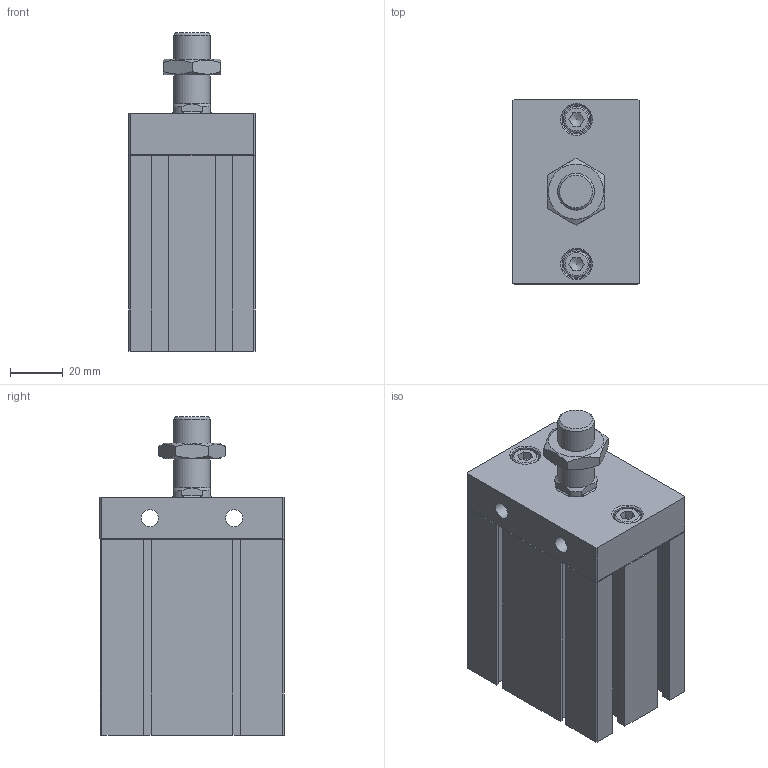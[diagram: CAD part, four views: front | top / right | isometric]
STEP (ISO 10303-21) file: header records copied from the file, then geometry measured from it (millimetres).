
FILE_DESCRIPTION((''),'2;1');
FILE_NAME('I:\3D電子目錄\氣缸\ND\ND\ND40-B\ND40-B.stp','2007-07-30T19:22:15',('Administrator'),(''),'Autodesk Inventor 11','Autodesk Inventor 11','');
FILE_SCHEMA(('AUTOMOTIVE_DESIGN { 1 0 10303 214 1 1 1 1 }'));
Length unit declared in the file: millimetre
Products named in the file (4): ND40-B; R 形環 42; ISO 4762 M6 x 20
Assembly tree (4 placements, depth 2):
  ND40-B
    ND40-B
    R 形環 42
    ISO 4762 M6 x 20  x2
Bounding box: 48 x 70.1 x 121 mm (x, y, z)
Volume: 278077.3 mm3; surface area: 47668.3 mm2
Topology: 5 solids, 5 shells, 207 faces, 501 edges, 321 vertices
Faces by surface type: plane 143, cylinder 27, cone 20, bspline 14, torus 3
Full cylindrical faces by diameter (mm): 1.9 x2, 2.2 x2, 6 x2, 6.5 x2, 10 x2, 11 x2, 14 x2, 29 x1, 42 x1, 44.5 x1
Entity records: 5567 total; most frequent: CARTESIAN_POINT 1155, DIRECTION 864, ORIENTED_EDGE 848, EDGE_CURVE 424, VECTOR 306, LINE 306, VERTEX_POINT 296, AXIS2_PLACEMENT_3D 279
